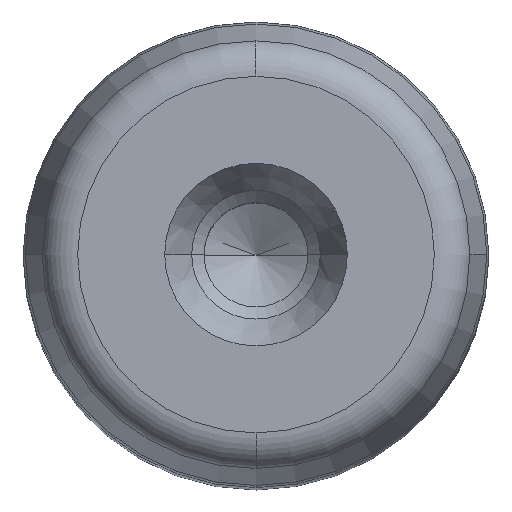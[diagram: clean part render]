
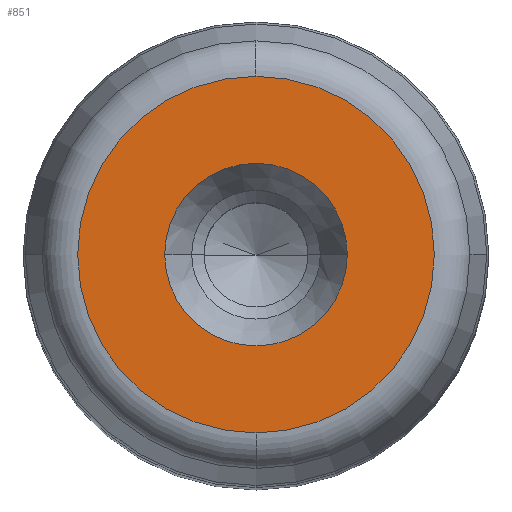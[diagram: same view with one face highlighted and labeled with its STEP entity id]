
A CAD part, top view. The second image highlights one B-rep face of the part: STEP entity #851.
In plain terms, the highlighted planar face has unit normal (0, 0, 1) as drawn and (0, 1, 0) by its records, which use the part's own axes.
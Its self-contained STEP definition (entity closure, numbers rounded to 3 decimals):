
#281=CARTESIAN_POINT('',(7.45,125.0,0.0));
#282=VERTEX_POINT('',#281);
#289=CARTESIAN_POINT('',(-7.45,125.0,0.));
#290=VERTEX_POINT('',#289);
#291=CARTESIAN_POINT('',(0.0,125.0,0.0));
#292=DIRECTION('',(0.0,1.0,0.0));
#293=DIRECTION('',(1.0,0.0,0.0));
#294=AXIS2_PLACEMENT_3D('',#291,#292,#293);
#295=CIRCLE('',#294,7.45);
#296=EDGE_CURVE('',#282,#290,#295,.T.);
#313=CARTESIAN_POINT('',(0.0,125.,14.554));
#314=VERTEX_POINT('',#313);
#324=CARTESIAN_POINT('',(0.,125.,-14.554));
#325=VERTEX_POINT('',#324);
#326=CARTESIAN_POINT('',(0.0,125.,0.0));
#327=DIRECTION('',(0.0,1.0,0.0));
#328=DIRECTION('',(1.0,0.0,0.0));
#329=AXIS2_PLACEMENT_3D('',#326,#327,#328);
#330=CIRCLE('',#329,14.554);
#331=EDGE_CURVE('',#325,#314,#330,.T.);
#812=CARTESIAN_POINT('',(14.554,125.,0.0));
#813=VERTEX_POINT('',#812);
#814=CARTESIAN_POINT('',(0.0,125.,0.0));
#815=DIRECTION('',(0.0,1.0,0.0));
#816=DIRECTION('',(1.0,0.0,0.0));
#817=AXIS2_PLACEMENT_3D('',#814,#815,#816);
#818=CIRCLE('',#817,14.554);
#819=EDGE_CURVE('',#813,#325,#818,.T.);
#821=CARTESIAN_POINT('',(0.0,125.,0.0));
#822=DIRECTION('',(0.0,1.0,0.0));
#823=DIRECTION('',(1.0,0.0,0.0));
#824=AXIS2_PLACEMENT_3D('',#821,#822,#823);
#825=CIRCLE('',#824,14.554);
#826=EDGE_CURVE('',#314,#813,#825,.T.);
#831=CARTESIAN_POINT('',(-16.01,125.0,-16.01));
#832=DIRECTION('',(0.0,1.0,0.0));
#833=DIRECTION('',(0.0,0.0,1.0));
#834=AXIS2_PLACEMENT_3D('',#831,#832,#833);
#835=PLANE('',#834);
#836=ORIENTED_EDGE('',*,*,#819,.T.);
#837=ORIENTED_EDGE('',*,*,#331,.T.);
#838=ORIENTED_EDGE('',*,*,#826,.T.);
#839=EDGE_LOOP('',(#836,#837,#838));
#840=FACE_OUTER_BOUND('',#839,.T.);
#841=ORIENTED_EDGE('',*,*,#296,.F.);
#842=CARTESIAN_POINT('',(0.0,125.0,0.0));
#843=DIRECTION('',(0.0,1.0,0.0));
#844=DIRECTION('',(1.0,0.0,0.0));
#845=AXIS2_PLACEMENT_3D('',#842,#843,#844);
#846=CIRCLE('',#845,7.45);
#847=EDGE_CURVE('',#290,#282,#846,.T.);
#848=ORIENTED_EDGE('',*,*,#847,.F.);
#849=EDGE_LOOP('',(#841,#848));
#850=FACE_BOUND('',#849,.T.);
#851=ADVANCED_FACE('',(#840,#850),#835,.T.);
